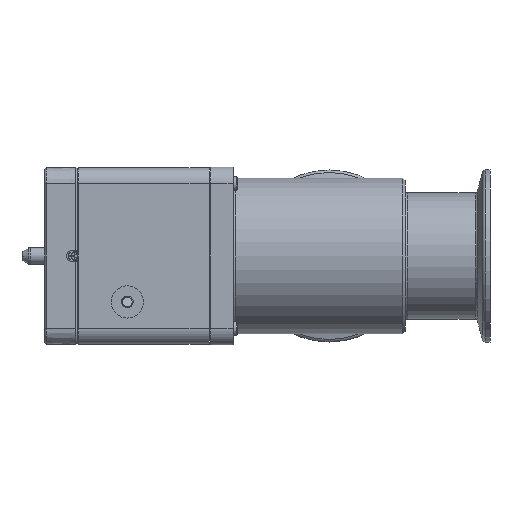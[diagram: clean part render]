
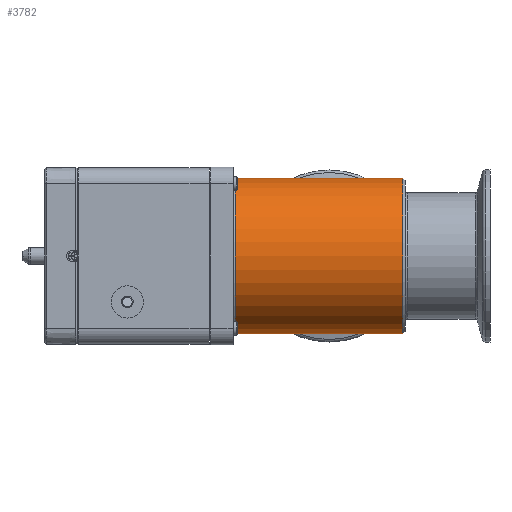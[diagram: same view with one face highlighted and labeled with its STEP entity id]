
A CAD part, left-side view. The second image highlights one B-rep face of the part: STEP entity #3782.
In plain terms, the highlighted cylindrical face has radius 33.95 mm (diameter 67.9 mm), a full revolution.
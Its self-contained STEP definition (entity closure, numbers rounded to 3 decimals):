
#3782=ADVANCED_FACE('',(#4520,#4521,#4522),#4303,.T.);
#4303=CYLINDRICAL_SURFACE('',#10213,33.95);
#4402=B_SPLINE_CURVE_WITH_KNOTS('',3,(#13534,#13535,#13536,#13537,#13538,
#13539,#13540,#13541,#13542,#13543,#13544,#13545,#13546,#13547,#13548,#13549,
#13550,#13551,#13552,#13553,#13554,#13555,#13556,#13557,#13558,#13559,#13560,
#13561,#13562,#13563,#13564,#13565,#13566,#13567),.UNSPECIFIED.,.T.,.F.,
(2,2,2,2,2,2,2,2,2,2,2,2,2,2,2,2,2,2,2),(-0.062,0.,0.063,0.125,
0.188,0.25,0.313,0.375,0.438,0.5,0.563,0.625,0.688,0.75,0.813,0.875,
0.938,1.,1.063),.UNSPECIFIED.);
#4520=FACE_BOUND('',#4906,.T.);
#4521=FACE_BOUND('',#4907,.T.);
#4522=FACE_BOUND('',#4908,.T.);
#4906=EDGE_LOOP('',(#5638));
#4907=EDGE_LOOP('',(#5639));
#4908=EDGE_LOOP('',(#5640));
#5638=ORIENTED_EDGE('',*,*,#8715,.T.);
#5639=ORIENTED_EDGE('',*,*,#8716,.T.);
#5640=ORIENTED_EDGE('',*,*,#8717,.F.);
#7908=VERTEX_POINT('',#13531);
#7909=VERTEX_POINT('',#13533);
#7910=VERTEX_POINT('',#13568);
#8715=EDGE_CURVE('',#7908,#7908,#9849,.T.);
#8716=EDGE_CURVE('',#7909,#7909,#9850,.T.);
#8717=EDGE_CURVE('',#7910,#7910,#4402,.T.);
#9849=CIRCLE('',#10211,33.95);
#9850=CIRCLE('',#10212,33.95);
#10211=AXIS2_PLACEMENT_3D('',#13530,#11092,#11093);
#10212=AXIS2_PLACEMENT_3D('',#13532,#11094,#11095);
#10213=AXIS2_PLACEMENT_3D('',#13569,#11096,#11097);
#11092=DIRECTION('',(1.,0.,0.));
#11093=DIRECTION('',(0.,0.,1.));
#11094=DIRECTION('',(-1.,0.,0.));
#11095=DIRECTION('',(0.,0.,1.));
#11096=DIRECTION('',(-1.,0.,0.));
#11097=DIRECTION('',(0.,0.,1.));
#13530=CARTESIAN_POINT('',(38.,0.,0.));
#13531=CARTESIAN_POINT('',(38.,0.,33.95));
#13532=CARTESIAN_POINT('',(111.025,0.,0.));
#13533=CARTESIAN_POINT('',(111.025,0.,33.95));
#13534=CARTESIAN_POINT('',(73.462,22.97,-25.));
#13535=CARTESIAN_POINT('',(66.538,22.97,-25.));
#13536=CARTESIAN_POINT('',(63.217,23.795,-24.276));
#13537=CARTESIAN_POINT('',(57.299,26.105,-21.772));
#13538=CARTESIAN_POINT('',(54.674,27.556,-19.999));
#13539=CARTESIAN_POINT('',(50.205,30.27,-15.589));
#13540=CARTESIAN_POINT('',(48.369,31.538,-12.958));
#13541=CARTESIAN_POINT('',(45.756,33.385,-6.929));
#13542=CARTESIAN_POINT('',(45.011,33.942,-3.504));
#13543=CARTESIAN_POINT('',(44.989,33.958,3.342));
#13544=CARTESIAN_POINT('',(45.703,33.423,6.749));
#13545=CARTESIAN_POINT('',(48.285,31.596,12.819));
#13546=CARTESIAN_POINT('',(50.132,30.318,15.499));
#13547=CARTESIAN_POINT('',(54.611,27.591,19.954));
#13548=CARTESIAN_POINT('',(57.215,26.147,21.724));
#13549=CARTESIAN_POINT('',(63.139,23.817,24.255));
#13550=CARTESIAN_POINT('',(66.496,22.98,24.99));
#13551=CARTESIAN_POINT('',(73.367,22.959,25.009));
#13552=CARTESIAN_POINT('',(76.766,23.79,24.28));
#13553=CARTESIAN_POINT('',(82.679,26.095,21.784));
#13554=CARTESIAN_POINT('',(85.316,27.551,20.006));
#13555=CARTESIAN_POINT('',(89.783,30.262,15.604));
#13556=CARTESIAN_POINT('',(91.639,31.543,12.949));
#13557=CARTESIAN_POINT('',(94.26,33.396,6.883));
#13558=CARTESIAN_POINT('',(94.989,33.942,3.521));
#13559=CARTESIAN_POINT('',(95.01,33.958,-3.368));
#13560=CARTESIAN_POINT('',(94.291,33.419,-6.767));
#13561=CARTESIAN_POINT('',(91.707,31.591,-12.832));
#13562=CARTESIAN_POINT('',(89.86,30.313,-15.51));
#13563=CARTESIAN_POINT('',(85.373,27.582,-19.967));
#13564=CARTESIAN_POINT('',(82.784,26.144,-21.728));
#13565=CARTESIAN_POINT('',(76.814,23.801,-24.271));
#13566=CARTESIAN_POINT('',(73.462,22.97,-25.));
#13567=CARTESIAN_POINT('',(66.538,22.97,-25.));
#13568=CARTESIAN_POINT('',(70.,22.97,-25.));
#13569=CARTESIAN_POINT('',(0.,0.,0.));
